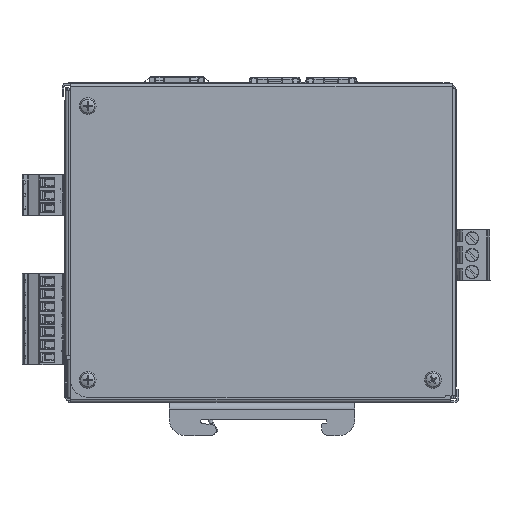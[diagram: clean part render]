
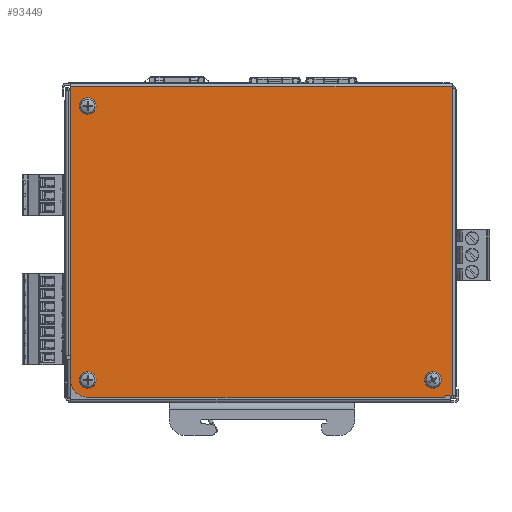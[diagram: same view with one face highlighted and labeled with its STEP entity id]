
A CAD part, front view. The second image highlights one B-rep face of the part: STEP entity #93449.
In plain terms, the highlighted planar face has unit normal (0, -1, 0).
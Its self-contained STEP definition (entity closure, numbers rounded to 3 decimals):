
#3595=FACE_BOUND('',#14826,.T.);
#3596=FACE_BOUND('',#14827,.T.);
#3597=FACE_BOUND('',#14828,.T.);
#4674=CIRCLE('',#98887,2.5);
#4713=CIRCLE('',#98958,2.5);
#4934=CIRCLE('',#99384,0.5);
#4958=CIRCLE('',#99437,5.2);
#5015=CIRCLE('',#99560,2.5);
#10140=FACE_OUTER_BOUND('',#14825,.T.);
#14825=EDGE_LOOP('',(#74263,#74264,#74265,#74266,#74267,#74268,#74269,#74270,
#74271));
#14826=EDGE_LOOP('',(#74272));
#14827=EDGE_LOOP('',(#74273));
#14828=EDGE_LOOP('',(#74274));
#21691=LINE('',#179073,#31392);
#21694=LINE('',#179085,#31395);
#21769=LINE('',#179289,#31470);
#21771=LINE('',#179295,#31472);
#21775=LINE('',#179307,#31476);
#21806=LINE('',#179394,#31507);
#21815=LINE('',#179424,#31516);
#31392=VECTOR('',#115597,10.);
#31395=VECTOR('',#115610,10.);
#31470=VECTOR('',#115817,10.);
#31472=VECTOR('',#115821,10.);
#31476=VECTOR('',#115839,10.);
#31507=VECTOR('',#115934,10.);
#31516=VECTOR('',#115971,10.);
#40328=VERTEX_POINT('',#177815);
#40386=VERTEX_POINT('',#178167);
#40662=VERTEX_POINT('',#179022);
#40678=VERTEX_POINT('',#179071);
#40682=VERTEX_POINT('',#179083);
#40741=VERTEX_POINT('',#179278);
#40745=VERTEX_POINT('',#179287);
#40746=VERTEX_POINT('',#179291);
#40748=VERTEX_POINT('',#179294);
#40773=VERTEX_POINT('',#179392);
#40780=VERTEX_POINT('',#179422);
#40898=VERTEX_POINT('',#179792);
#52817=EDGE_CURVE('',#40328,#40328,#4674,.T.);
#52903=EDGE_CURVE('',#40386,#40386,#4713,.T.);
#53350=EDGE_CURVE('',#40662,#40678,#21691,.T.);
#53356=EDGE_CURVE('',#40678,#40682,#21694,.T.);
#53459=EDGE_CURVE('',#40741,#40745,#21769,.T.);
#53461=EDGE_CURVE('',#40748,#40746,#21771,.T.);
#53464=EDGE_CURVE('',#40741,#40746,#4934,.T.);
#53469=EDGE_CURVE('',#40745,#40662,#21775,.T.);
#53514=EDGE_CURVE('',#40682,#40773,#21806,.T.);
#53529=EDGE_CURVE('',#40780,#40748,#21815,.T.);
#53530=EDGE_CURVE('',#40780,#40773,#4958,.T.);
#53713=EDGE_CURVE('',#40898,#40898,#5015,.T.);
#74263=ORIENTED_EDGE('',*,*,#53530,.F.);
#74264=ORIENTED_EDGE('',*,*,#53529,.T.);
#74265=ORIENTED_EDGE('',*,*,#53461,.T.);
#74266=ORIENTED_EDGE('',*,*,#53464,.F.);
#74267=ORIENTED_EDGE('',*,*,#53459,.T.);
#74268=ORIENTED_EDGE('',*,*,#53469,.T.);
#74269=ORIENTED_EDGE('',*,*,#53350,.T.);
#74270=ORIENTED_EDGE('',*,*,#53356,.T.);
#74271=ORIENTED_EDGE('',*,*,#53514,.T.);
#74272=ORIENTED_EDGE('',*,*,#53713,.T.);
#74273=ORIENTED_EDGE('',*,*,#52903,.T.);
#74274=ORIENTED_EDGE('',*,*,#52817,.T.);
#85906=PLANE('',#99559);
#93449=ADVANCED_FACE('',(#10140,#3595,#3596,#3597),#85906,.F.);
#98887=AXIS2_PLACEMENT_3D('',#177816,#114470,#114471);
#98958=AXIS2_PLACEMENT_3D('',#178168,#114635,#114636);
#99384=AXIS2_PLACEMENT_3D('',#179300,#115826,#115827);
#99437=AXIS2_PLACEMENT_3D('',#179426,#115974,#115975);
#99559=AXIS2_PLACEMENT_3D('',#179791,#116344,#116345);
#99560=AXIS2_PLACEMENT_3D('',#179793,#116346,#116347);
#114470=DIRECTION('center_axis',(0.,1.,0.));
#114471=DIRECTION('ref_axis',(0.852,0.,0.524));
#114635=DIRECTION('center_axis',(0.,1.,0.));
#114636=DIRECTION('ref_axis',(0.,0.,
1.));
#115597=DIRECTION('',(0.,0.,1.));
#115610=DIRECTION('',(-1.,0.,0.));
#115817=DIRECTION('',(1.,0.,0.));
#115821=DIRECTION('',(0.707,0.,0.707));
#115826=DIRECTION('center_axis',(0.,-1.,0.));
#115827=DIRECTION('ref_axis',(-0.383,0.,
0.924));
#115839=DIRECTION('',(0.,0.,1.));
#115934=DIRECTION('',(0.,0.,-1.));
#115971=DIRECTION('',(1.,0.,0.));
#115974=DIRECTION('center_axis',(0.,1.,0.));
#115975=DIRECTION('ref_axis',(-0.707,0.,
-0.707));
#116344=DIRECTION('center_axis',(0.,1.,0.));
#116345=DIRECTION('ref_axis',(1.,0.,0.));
#116346=DIRECTION('center_axis',(0.,1.,0.));
#116347=DIRECTION('ref_axis',(0.,0.,
-1.));
#177815=CARTESIAN_POINT('',(50.671,-31.,-41.51));
#177816=CARTESIAN_POINT('Origin',(52.8,-31.,-40.2));
#178167=CARTESIAN_POINT('',(-51.2,-31.,-42.7));
#178168=CARTESIAN_POINT('Origin',(-51.2,-31.,-40.2));
#179022=CARTESIAN_POINT('',(58.6,-31.,47.55));
#179071=CARTESIAN_POINT('',(58.6,-31.,48.1));
#179073=CARTESIAN_POINT('',(58.6,-31.,25.35));
#179083=CARTESIAN_POINT('',(-56.4,-31.,48.1));
#179085=CARTESIAN_POINT('',(-29.275,-31.,48.1));
#179278=CARTESIAN_POINT('',(56.807,-31.,-45.025));
#179287=CARTESIAN_POINT('',(58.6,-31.,-45.025));
#179289=CARTESIAN_POINT('',(28.475,-31.,-45.025));
#179291=CARTESIAN_POINT('',(56.454,-31.,-45.171));
#179294=CARTESIAN_POINT('',(56.225,-31.,-45.4));
#179295=CARTESIAN_POINT('',(54.006,-31.,-47.619));
#179300=CARTESIAN_POINT('Origin',(56.807,-31.,-45.525));
#179307=CARTESIAN_POINT('',(58.6,-31.,25.35));
#179392=CARTESIAN_POINT('',(-56.4,-31.,-40.2));
#179394=CARTESIAN_POINT('',(-56.4,-31.,25.35));
#179422=CARTESIAN_POINT('',(-51.2,-31.,-45.4));
#179424=CARTESIAN_POINT('',(-29.275,-31.,-45.4));
#179426=CARTESIAN_POINT('Origin',(-51.2,-31.,-40.2));
#179791=CARTESIAN_POINT('Origin',(0.35,-31.,1.6));
#179792=CARTESIAN_POINT('',(-51.2,-31.,44.8));
#179793=CARTESIAN_POINT('Origin',(-51.2,-31.,42.3));
